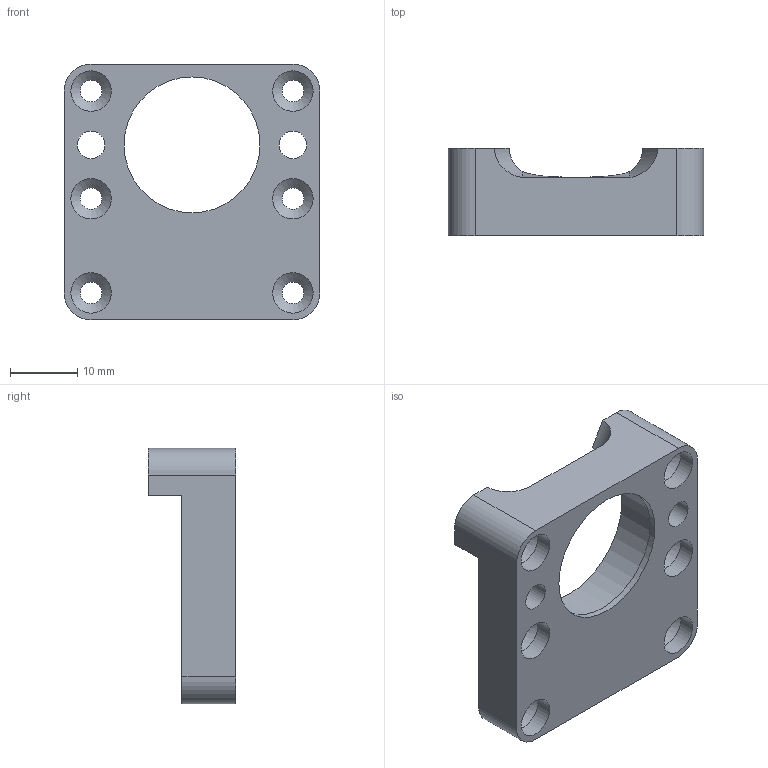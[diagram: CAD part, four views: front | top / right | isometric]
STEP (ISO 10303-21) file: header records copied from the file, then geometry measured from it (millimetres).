
FILE_DESCRIPTION(/* description */ (''),/* implementation_level */ '2;1');
FILE_NAME(/* name */ '6-09-2 Joy case one.step',/* time_stamp */ '2025-05-10T22:37:09+02:00',/* author */ (''),/* organization */ (''),/* preprocessor_version */ 'ST-DEVELOPER v20.1',/* originating_system */ 'Autodesk Translation Framework v14.4.0.0',/* authorisation */ '');
FILE_SCHEMA (('AUTOMOTIVE_DESIGN { 1 0 10303 214 3 1 1 }'));
Length unit declared in the file: millimetre
Products named in the file (1): 6-09-2 Joy case one
Bounding box: 38 x 13 x 38 mm (x, y, z)
Volume: 7448.2 mm3; surface area: 5415.7 mm2
Topology: 1 solids, 1 shells, 55 faces, 134 edges, 86 vertices
Faces by surface type: cylinder 29, plane 19, cone 6, bspline 1
Full cylindrical faces by diameter (mm): 3.2 x6, 4.1 x4, 4.2 x2, 6 x6, 20.2 x1, 22.2 x1
Entity records: 1720 total; most frequent: DIRECTION 306, CARTESIAN_POINT 295, ORIENTED_EDGE 268, EDGE_CURVE 134, AXIS2_PLACEMENT_3D 118, VERTEX_POINT 86, EDGE_LOOP 78, LINE 70
